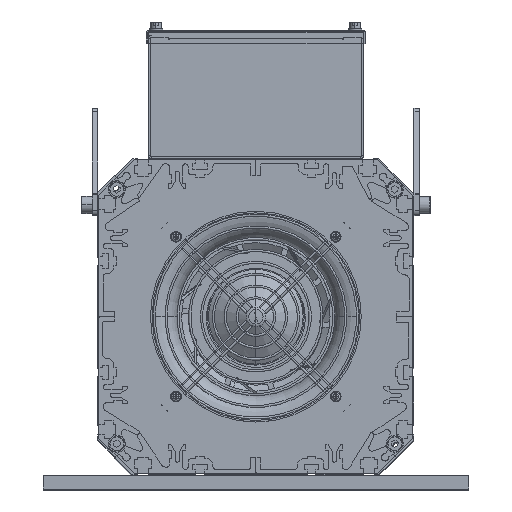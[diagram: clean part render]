
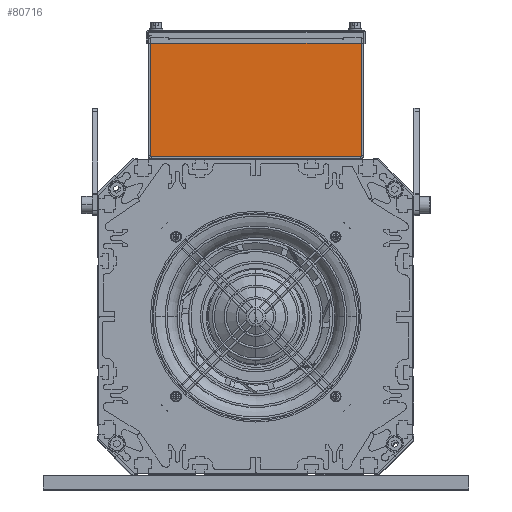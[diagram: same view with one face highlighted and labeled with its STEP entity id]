
A CAD part, top view. The second image highlights one B-rep face of the part: STEP entity #80716.
In plain terms, the highlighted planar face has unit normal (0, 0, 1).
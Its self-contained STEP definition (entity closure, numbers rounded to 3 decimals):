
#1078 = EDGE_CURVE ( 'NONE', #78992, #3383, #34974, .T. ) ;
#1978 = LINE ( 'NONE', #72680, #34816 ) ;
#2257 = CARTESIAN_POINT ( 'NONE',  ( 98., 260., 190. ) ) ;
#3383 = VERTEX_POINT ( 'NONE', #35046 ) ;
#4349 = LINE ( 'NONE', #25798, #79946 ) ;
#4583 = ORIENTED_EDGE ( 'NONE', *, *, #9429, .T. ) ;
#5655 = ORIENTED_EDGE ( 'NONE', *, *, #16604, .T. ) ;
#5749 = DIRECTION ( 'NONE',  ( 1., 0., 0. ) ) ;
#6531 = ORIENTED_EDGE ( 'NONE', *, *, #50082, .T. ) ;
#6710 = DIRECTION ( 'NONE',  ( -1., 0., 0. ) ) ;
#7079 = CARTESIAN_POINT ( 'NONE',  ( -98., 260., 190. ) ) ;
#7281 = CARTESIAN_POINT ( 'NONE',  ( 80.5, 260., 190. ) ) ;
#8687 = VERTEX_POINT ( 'NONE', #21288 ) ;
#9429 = EDGE_CURVE ( 'NONE', #68149, #32187, #46364, .T. ) ;
#9812 = CARTESIAN_POINT ( 'NONE',  ( -98., 260., 190. ) ) ;
#10951 = PLANE ( 'NONE',  #64003 ) ;
#11154 = VERTEX_POINT ( 'NONE', #11253 ) ;
#11253 = CARTESIAN_POINT ( 'NONE',  ( -81.5, 258., 190. ) ) ;
#11315 = VERTEX_POINT ( 'NONE', #53146 ) ;
#12702 = LINE ( 'NONE', #57795, #46480 ) ;
#16604 = EDGE_CURVE ( 'NONE', #11154, #29421, #4349, .T. ) ;
#16855 = VECTOR ( 'NONE', #49198, 1000. ) ;
#17333 = DIRECTION ( 'NONE',  ( -1., 0., 0. ) ) ;
#18671 = ORIENTED_EDGE ( 'NONE', *, *, #75181, .F. ) ;
#21288 = CARTESIAN_POINT ( 'NONE',  ( 81.5, 260., 190. ) ) ;
#21906 = DIRECTION ( 'NONE',  ( 0., 1., 0. ) ) ;
#23136 = ORIENTED_EDGE ( 'NONE', *, *, #1078, .T. ) ;
#25299 = CARTESIAN_POINT ( 'NONE',  ( -98., 149., 190. ) ) ;
#25798 = CARTESIAN_POINT ( 'NONE',  ( -81.5, 260., 190. ) ) ;
#26774 = DIRECTION ( 'NONE',  ( -1., 0., 0. ) ) ;
#27197 = DIRECTION ( 'NONE',  ( 0., 1., 0. ) ) ;
#27339 = DIRECTION ( 'NONE',  ( 0., 1., 0. ) ) ;
#27794 = EDGE_CURVE ( 'NONE', #48657, #29421, #40405, .T. ) ;
#29393 = EDGE_CURVE ( 'NONE', #8687, #78992, #47962, .T. ) ;
#29421 = VERTEX_POINT ( 'NONE', #33152 ) ;
#30251 = CARTESIAN_POINT ( 'NONE',  ( -98., 258., 190. ) ) ;
#32187 = VERTEX_POINT ( 'NONE', #46608 ) ;
#32667 = CARTESIAN_POINT ( 'NONE',  ( 98., 260., 190. ) ) ;
#33152 = CARTESIAN_POINT ( 'NONE',  ( -81.5, 260., 190. ) ) ;
#33836 = LINE ( 'NONE', #7281, #66432 ) ;
#34003 = CARTESIAN_POINT ( 'NONE',  ( 81.5, 260., 190. ) ) ;
#34373 = VECTOR ( 'NONE', #17333, 1000. ) ;
#34816 = VECTOR ( 'NONE', #26774, 1000. ) ;
#34974 = LINE ( 'NONE', #44461, #79740 ) ;
#35046 = CARTESIAN_POINT ( 'NONE',  ( 80.5, 258., 190. ) ) ;
#35742 = LINE ( 'NONE', #32667, #74446 ) ;
#36284 = FACE_OUTER_BOUND ( 'NONE', #56385, .T. ) ;
#38979 = VECTOR ( 'NONE', #21906, 1000. ) ;
#39488 = ORIENTED_EDGE ( 'NONE', *, *, #72206, .F. ) ;
#40405 = LINE ( 'NONE', #2257, #16855 ) ;
#42264 = ORIENTED_EDGE ( 'NONE', *, *, #63375, .F. ) ;
#42471 = ORIENTED_EDGE ( 'NONE', *, *, #78617, .F. ) ;
#43148 = ORIENTED_EDGE ( 'NONE', *, *, #29393, .T. ) ;
#44094 = EDGE_CURVE ( 'NONE', #62438, #68149, #1978, .T. ) ;
#44461 = CARTESIAN_POINT ( 'NONE',  ( -98., 258., 190. ) ) ;
#46364 = LINE ( 'NONE', #67115, #82078 ) ;
#46480 = VECTOR ( 'NONE', #6710, 1000. ) ;
#46608 = CARTESIAN_POINT ( 'NONE',  ( -80.5, 258., 190. ) ) ;
#47338 = DIRECTION ( 'NONE',  ( 0., -1., 0. ) ) ;
#47962 = LINE ( 'NONE', #34003, #61162 ) ;
#48420 = CARTESIAN_POINT ( 'NONE',  ( 81.5, 258., 190. ) ) ;
#48657 = VERTEX_POINT ( 'NONE', #9812 ) ;
#49198 = DIRECTION ( 'NONE',  ( 1., 0., 0. ) ) ;
#50082 = EDGE_CURVE ( 'NONE', #3383, #62438, #33836, .T. ) ;
#50157 = DIRECTION ( 'NONE',  ( -1., 0., 0. ) ) ;
#51980 = VERTEX_POINT ( 'NONE', #25299 ) ;
#52759 = DIRECTION ( 'NONE',  ( 0., 0., 1. ) ) ;
#53055 = DIRECTION ( 'NONE',  ( 0., -1., 0. ) ) ;
#53146 = CARTESIAN_POINT ( 'NONE',  ( 98., 260., 190. ) ) ;
#54996 = CARTESIAN_POINT ( 'NONE',  ( -80.5, 259., 190. ) ) ;
#56385 = EDGE_LOOP ( 'NONE', ( #39488, #43148, #23136, #6531, #71720, #4583, #66930, #5655, #72082, #42264, #42471, #18671 ) ) ;
#56416 = VERTEX_POINT ( 'NONE', #66856 ) ;
#57795 = CARTESIAN_POINT ( 'NONE',  ( 98., 149., 190. ) ) ;
#59904 = LINE ( 'NONE', #60388, #73182 ) ;
#60388 = CARTESIAN_POINT ( 'NONE',  ( 98., 149., 190. ) ) ;
#60442 = EDGE_CURVE ( 'NONE', #32187, #11154, #78150, .T. ) ;
#61162 = VECTOR ( 'NONE', #53055, 1000. ) ;
#62324 = CARTESIAN_POINT ( 'NONE',  ( 80.5, 259., 190. ) ) ;
#62438 = VERTEX_POINT ( 'NONE', #62324 ) ;
#63375 = EDGE_CURVE ( 'NONE', #51980, #48657, #73595, .T. ) ;
#64003 = AXIS2_PLACEMENT_3D ( 'NONE', #7079, #52759, #65604 ) ;
#65604 = DIRECTION ( 'NONE',  ( 1., 0., 0. ) ) ;
#66432 = VECTOR ( 'NONE', #27339, 1000. ) ;
#66856 = CARTESIAN_POINT ( 'NONE',  ( 98., 149., 190. ) ) ;
#66930 = ORIENTED_EDGE ( 'NONE', *, *, #60442, .T. ) ;
#67115 = CARTESIAN_POINT ( 'NONE',  ( -80.5, 260., 190. ) ) ;
#67395 = DIRECTION ( 'NONE',  ( 0., -1., 0. ) ) ;
#68149 = VERTEX_POINT ( 'NONE', #54996 ) ;
#68387 = CARTESIAN_POINT ( 'NONE',  ( -98., 149., 190. ) ) ;
#71720 = ORIENTED_EDGE ( 'NONE', *, *, #44094, .T. ) ;
#72082 = ORIENTED_EDGE ( 'NONE', *, *, #27794, .F. ) ;
#72206 = EDGE_CURVE ( 'NONE', #8687, #11315, #35742, .T. ) ;
#72680 = CARTESIAN_POINT ( 'NONE',  ( 80.5, 259., 190. ) ) ;
#73182 = VECTOR ( 'NONE', #47338, 1000. ) ;
#73595 = LINE ( 'NONE', #68387, #38979 ) ;
#74446 = VECTOR ( 'NONE', #5749, 1000. ) ;
#75181 = EDGE_CURVE ( 'NONE', #11315, #56416, #59904, .T. ) ;
#78150 = LINE ( 'NONE', #30251, #34373 ) ;
#78617 = EDGE_CURVE ( 'NONE', #56416, #51980, #12702, .T. ) ;
#78992 = VERTEX_POINT ( 'NONE', #48420 ) ;
#79740 = VECTOR ( 'NONE', #50157, 1000. ) ;
#79946 = VECTOR ( 'NONE', #27197, 1000. ) ;
#80716 = ADVANCED_FACE ( 'NONE', ( #36284 ), #10951, .T. ) ;
#82078 = VECTOR ( 'NONE', #67395, 1000. ) ;
